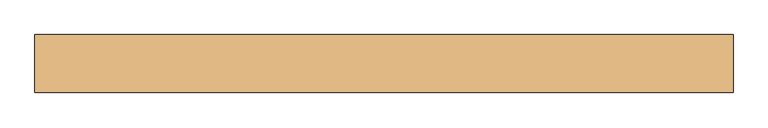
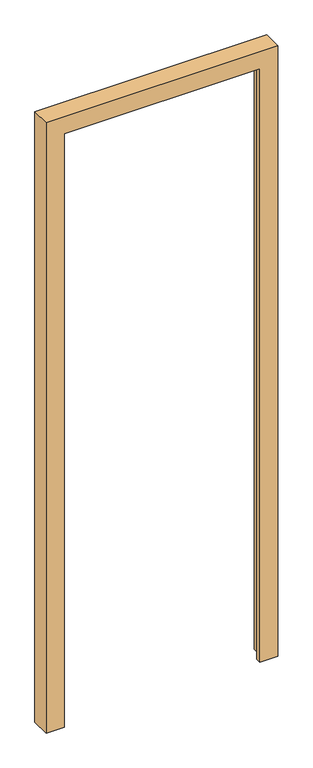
"""IFC4 building model written with IfcOpenShell, lengths in millimetres: door geometry, PNX_PORTE-N-PTH : 94-PTHC55."""

from ifc_helpers import new_model, si_unit, origin, place, context, project, spatial, faceted_brep, source, transform, mapped, element, save


def door_9508b025(model_context):
    return source(origin(), model_context, "Body", "Brep", [
        faceted_brep([(-499.6, 41.5, 0.0), (-444.6, 41.5, 0.0), (-444.6, -18.0, 0.0), (-422.1, -18.0, 0.0), (-422.1, -41.5, 0.0), (-499.6, -41.5, 0.0), (499.6, -41.5, 0.0), (422.1, -41.5, 0.0), (422.1, -18.0, 0.0), (444.6, -18.0, 0.0), (444.6, 41.5, 0.0), (499.6, 41.5, 0.0), (-499.6, 41.5, 2780.0), (-499.6, -41.5, 2780.0), (-422.1, -41.5, 2702.5), (422.1, -41.5, 2702.5), (499.6, -41.5, 2780.0), (-422.1, -18.0, 2702.5), (444.6, -18.0, 2725.0), (422.1, -18.0, 2702.5), (-444.6, -18.0, 2725.0), (-444.6, 41.5, 2725.0), (499.6, 41.5, 2780.0), (444.6, 41.5, 2725.0)], [[[0, 1, 2, 3, 4, 5]], [[6, 7, 8, 9, 10, 11]], [[12, 0, 5, 13]], [[13, 5, 4, 14, 15, 7, 6, 16]], [[14, 4, 3, 17]], [[18, 9, 8, 19, 17, 3, 2, 20]], [[20, 2, 1, 21]], [[22, 11, 10, 23, 21, 1, 0, 12]], [[16, 6, 11, 22]], [[23, 10, 9, 18]], [[19, 8, 7, 15]], [[22, 12, 13, 16]], [[15, 14, 17, 19]], [[21, 23, 18, 20]]]),
    ])


if __name__ == "__main__":
    model = new_model("IFC4")
    model_context = context("Model", 3, world=origin())
    ifc_project = project(units=[si_unit("LENGTHUNIT", "METRE", prefix="MILLI")], contexts=[model_context])
    site = spatial("IfcSite", under=ifc_project)
    building = spatial("IfcBuilding", under=site)
    placement = place(None, origin())
    door_shape = door_9508b025(model_context)
    element("IfcDoor", 1, ObjectType="PNX_PORTE-N-PTH : 94-PTHC55", at=placement, inside=building, context=model_context, shape_type="MappedRepresentation", body=[
        mapped(door_shape, transform((0.0, 0.0, 0.0), x_axis=(1.0, 0.0, 0.0), y_axis=(0.0, 1.0, 0.0), z_axis=(0.0, 0.0, 1.0))),
    ])
    save(model, "model.ifc")
